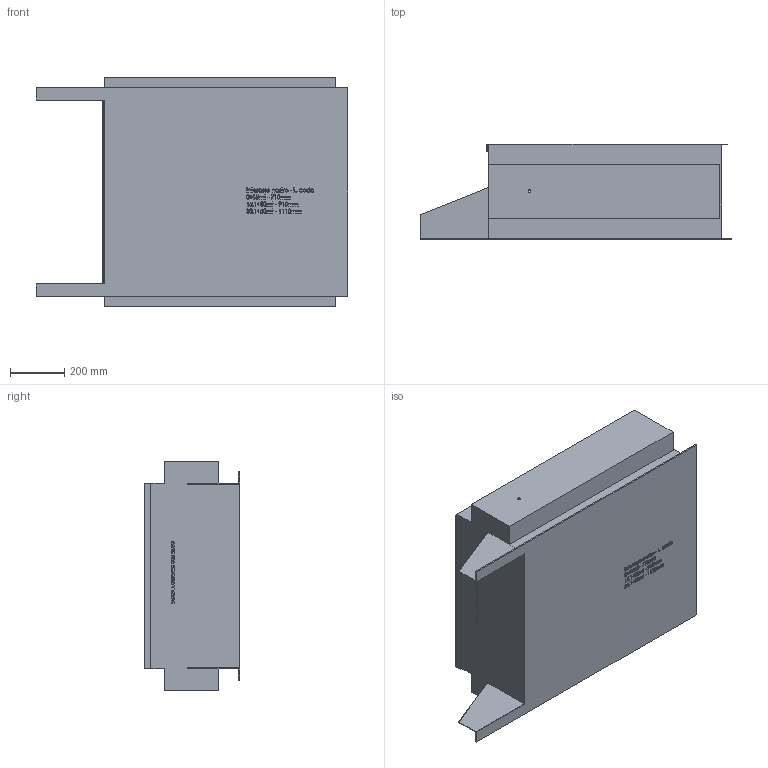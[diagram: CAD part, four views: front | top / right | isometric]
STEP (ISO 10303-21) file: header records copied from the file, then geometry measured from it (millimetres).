
FILE_DESCRIPTION (( 'STEP AP203' ), '1' );
FILE_NAME ('30044.step', '2019-03-14T14:31:05', ( 'PC' ), ( 'Hewlett-Packard Company' ), 'SwSTEP 2.0', 'SolidWorks 2016', '' );
FILE_SCHEMA (( 'CONFIG_CONTROL_DESIGN' ));
Products named in the file (1): 30044
Bounding box: 1150 x 353.5 x 850 mm (x, y, z)
Volume: 237377972.7 mm3; surface area: 3115197.1 mm2
Topology: 1 solids, 1 shells, 1110 faces, 2964 edges, 1976 vertices
Faces by surface type: plane 679, bspline 429, cylinder 2
Entity records: 57931 total; most frequent: CARTESIAN_POINT 33072, ORIENTED_EDGE 5928, DIRECTION 3474, EDGE_CURVE 2964, LINE 2102, VECTOR 2102, VERTEX_POINT 1976, EDGE_LOOP 1232
